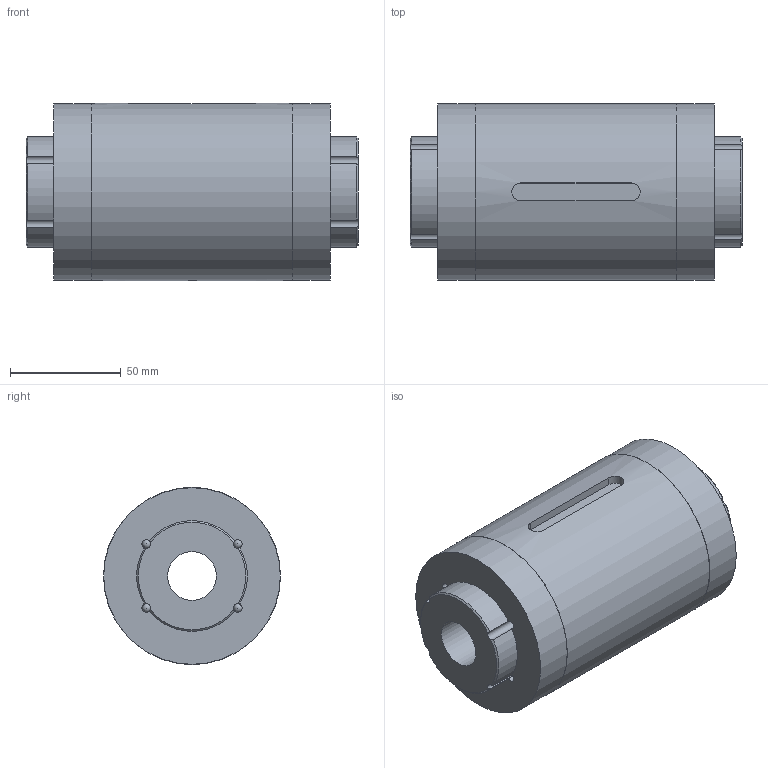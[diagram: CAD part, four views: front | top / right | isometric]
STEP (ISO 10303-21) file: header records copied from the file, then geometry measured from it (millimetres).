
FILE_DESCRIPTION(/* description */ ('Unknown'),/* implementation_level */ '2;1');
FILE_NAME(/* name */ 'TLT050-D1-L150',/* time_stamp */ '2024-12-23T10:17:32+08:00',/* author */ ('Unknown'),/* organization */ ('Unknown'),/* preprocessor_version */ 'ST-DEVELOPER v18.102',/* originating_system */ 'Solid Edge',/* authorisation */ 'Unknown');
FILE_SCHEMA (('AUTOMOTIVE_DESIGN {1 0 10303 214 3 1 1}'));
Length unit declared in the file: millimetre
Products named in the file (3): TLT050-D1-L150; TLT050-D1-xxxx; TLT050
Assembly tree (2 placements, depth 2):
  TLT050-D1-L150
    TLT050-D1-xxxx
    TLT050
Bounding box: 150 x 80 x 80 mm (x, y, z)
Volume: 611587.4 mm3; surface area: 98083.8 mm2
Topology: 2 solids, 2 shells, 60 faces, 274 edges, 180 vertices
Faces by surface type: cylinder 23, sphere 20, plane 9, cone 8
Full cylindrical faces by diameter (mm): 4 x1, 22 x1, 79.8 x2, 80 x1
Entity records: 3099 total; most frequent: CARTESIAN_POINT 1055, ORIENTED_EDGE 460, DIRECTION 322, EDGE_CURVE 230, VERTEX_POINT 162, AXIS2_PLACEMENT_3D 129, EDGE_LOOP 126, FACE_BOUND 126
